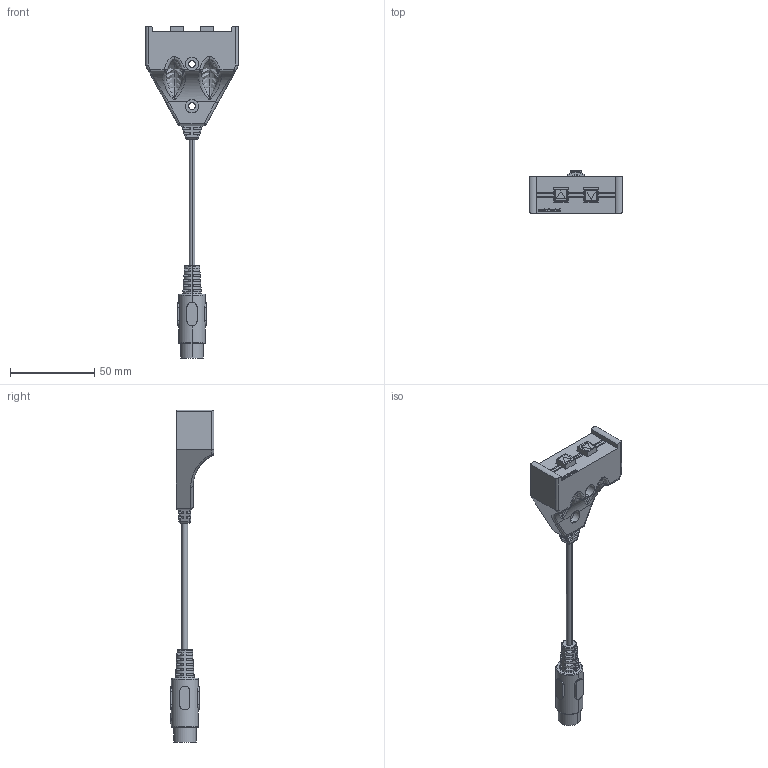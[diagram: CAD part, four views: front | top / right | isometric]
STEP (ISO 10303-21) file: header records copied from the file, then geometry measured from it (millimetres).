
FILE_DESCRIPTION (( 'STEP AP203' ), '1' );
FILE_NAME ('645-02553 Low Profile Switch.STEP', '2014-01-30T13:20:45', ( '' ), ( '' ), 'SwSTEP 2.0', 'SolidWorks 2013', '' );
FILE_SCHEMA (( 'CONFIG_CONTROL_DESIGN' ));
Length unit declared in the file: millimetre
Products named in the file (3): Low Profile Switch Base; Switch Cable; 645-02553 Low Profile Switch
Assembly tree (2 placements, depth 2):
  645-02553 Low Profile Switch
    Low Profile Switch Base
    Switch Cable
Bounding box: 55 x 25.89 x 196.75 mm (x, y, z)
Volume: 49302.9 mm3; surface area: 15162.2 mm2
Topology: 2 solids, 2 shells, 561 faces, 1435 edges, 920 vertices
Faces by surface type: plane 297, cylinder 115, bspline 92, torus 31, cone 18, sphere 8
Entity records: 22206 total; most frequent: CARTESIAN_POINT 8967, ORIENTED_EDGE 2846, DIRECTION 2404, EDGE_CURVE 1423, VERTEX_POINT 920, VECTOR 824, LINE 824, AXIS2_PLACEMENT_3D 790
